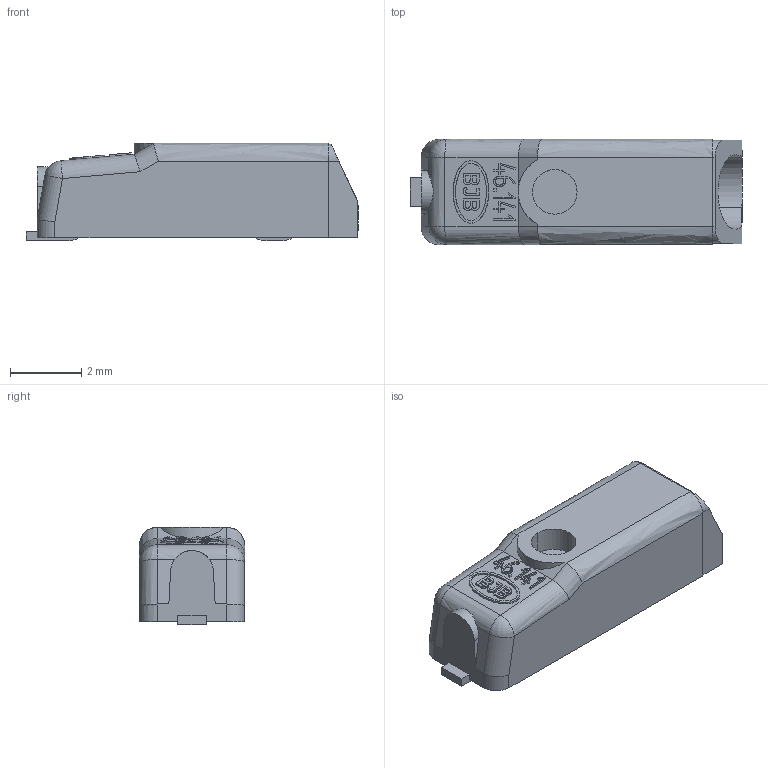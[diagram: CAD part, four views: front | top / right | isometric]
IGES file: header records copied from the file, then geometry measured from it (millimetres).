
Global section: file name: C:\CoreTechnologie\3D-in\01XYN02Y0A.igs; native system: CT CoreTechnologie 3D Evolution; preprocessor: 2006; author: assmuth; date: 1170717.141151; units: metre
Bounding box: 9.31 x 2.95 x 2.73 mm (x, y, z)
Volume: 58.5 mm3; surface area: 116.8 mm2
Topology: 1 solids, 1 shells, 174 faces, 450 edges, 296 vertices
Faces by surface type: plane 123, revolution 40, extrusion 8, bspline 3
